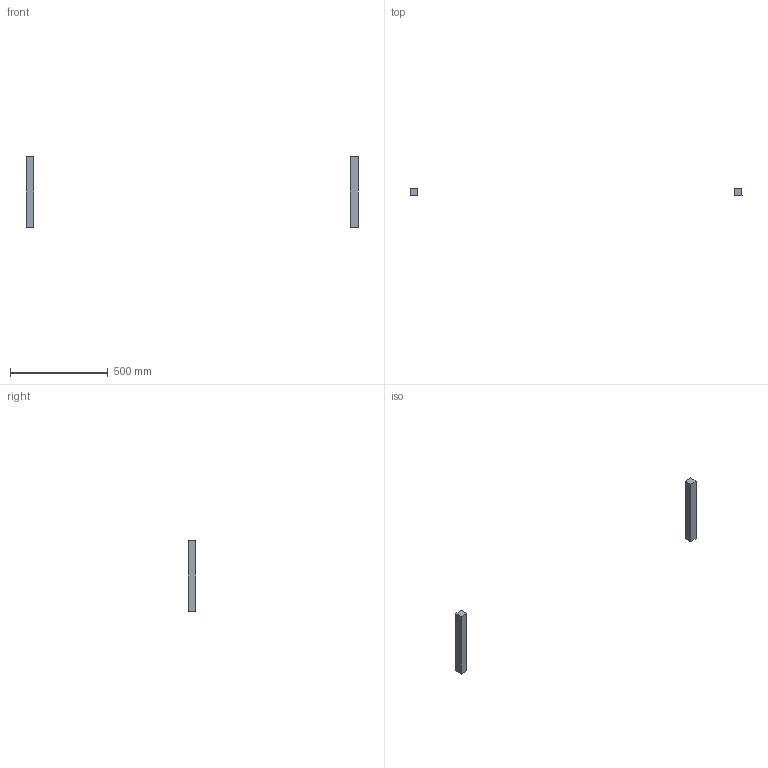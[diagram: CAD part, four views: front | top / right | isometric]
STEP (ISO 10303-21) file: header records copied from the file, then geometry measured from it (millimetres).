
FILE_DESCRIPTION(/* description */ (''),/* implementation_level */ '2;1');
FILE_NAME(/* name */ 'FR41B5~1',/* time_stamp */ '2014-02-14T19:32:12+01:00',/* author */ (''),/* organization */ (''),/* preprocessor_version */ 'ST-DEVELOPER v14',/* originating_system */ '',/* authorisation */ '');
FILE_SCHEMA (('AUTOMOTIVE_DESIGN'));
Length unit declared in the file: millimetre
Products named in the file (1): Document
Bounding box: 1700 x 40 x 360 mm (x, y, z)
Volume: 1152000 mm3; surface area: 121600 mm2
Topology: 2 solids, 2 shells, 12 faces, 24 edges, 16 vertices
Faces by surface type: plane 12
Entity records: 571 total; most frequent: CARTESIAN_POINT 174, B_SPLINE_CURVE_WITH_KNOTS 72, ORIENTED_EDGE 48, PCURVE 48, DEFINITIONAL_REPRESENTATION 48, SURFACE_CURVE 24, EDGE_CURVE 24, VERTEX_POINT 16
